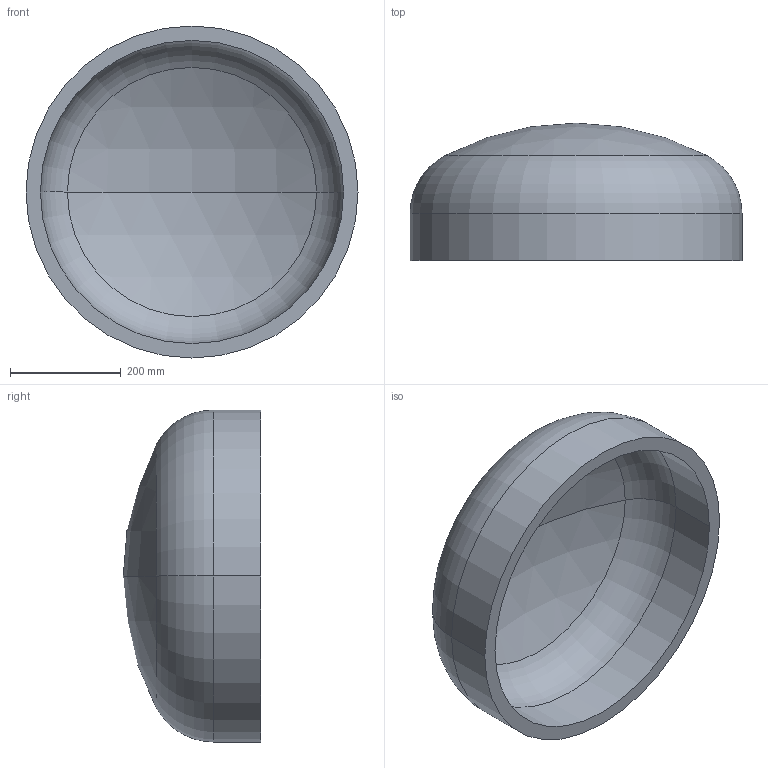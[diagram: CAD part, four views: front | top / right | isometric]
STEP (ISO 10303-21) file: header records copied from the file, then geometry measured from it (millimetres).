
FILE_DESCRIPTION (( 'STEP AP203' ), '1' );
FILE_NAME ('DIN 28013 Korbbogenform_-_Boden DIN 28013 - 600 x 85 - I - s=26.step', '2016-07-01T07:58:55', ( '' ), ( '' ), 'SwSTEP 2.0', 'SolidWorks 2013', '' );
FILE_SCHEMA (( 'CONFIG_CONTROL_DESIGN' ));
Length unit declared in the file: millimetre
Products named in the file (1): DIN 28013 Korbbogenform_-_Boden DIN 28013 - 600 x 85 - I - s=26
Bounding box: 600 x 248.33 x 600 mm (x, y, z)
Volume: 13603823.7 mm3; surface area: 1094748.7 mm2
Topology: 1 solids, 1 shells, 13 faces, 24 edges, 14 vertices
Faces by surface type: torus 4, cylinder 4, sphere 4, plane 1
Entity records: 407 total; most frequent: DIRECTION 72, CARTESIAN_POINT 52, ORIENTED_EDGE 48, AXIS2_PLACEMENT_3D 34, EDGE_CURVE 24, CIRCLE 20, VERTEX_POINT 14, EDGE_LOOP 14
